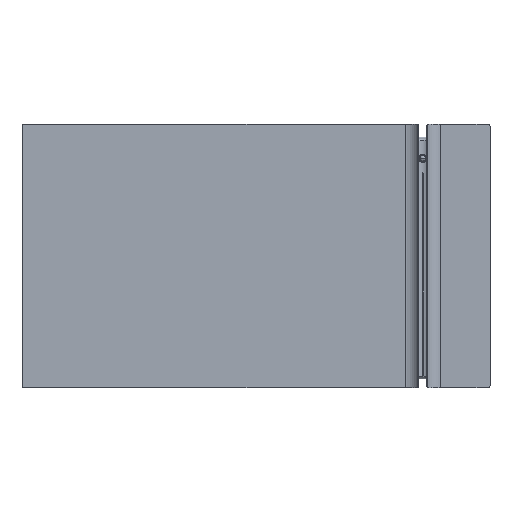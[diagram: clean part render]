
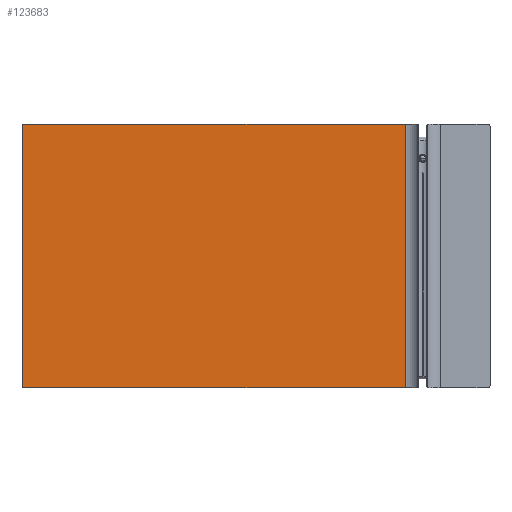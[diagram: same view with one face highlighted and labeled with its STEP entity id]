
A CAD part, top view. The second image highlights one B-rep face of the part: STEP entity #123683.
In plain terms, the highlighted planar face has unit normal (0, 0, 1).
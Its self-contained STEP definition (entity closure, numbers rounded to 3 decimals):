
#123407 = VERTEX_POINT('',#123408);
#123408 = CARTESIAN_POINT('',(3.,-225.,1.5));
#123414 = EDGE_CURVE('',#123415,#123407,#123417,.T.);
#123415 = VERTEX_POINT('',#123416);
#123416 = CARTESIAN_POINT('',(655.,-225.,1.5));
#123417 = LINE('',#123418,#123419);
#123418 = CARTESIAN_POINT('',(655.,-225.,1.5));
#123419 = VECTOR('',#123420,1.);
#123420 = DIRECTION('',(-1.,0.,0.));
#123437 = EDGE_CURVE('',#123438,#123407,#123440,.T.);
#123438 = VERTEX_POINT('',#123439);
#123439 = CARTESIAN_POINT('',(0.,-222.,1.5));
#123440 = CIRCLE('',#123441,3.);
#123441 = AXIS2_PLACEMENT_3D('',#123442,#123443,#123444);
#123442 = CARTESIAN_POINT('',(3.,-222.,1.5));
#123443 = DIRECTION('',(0.,0.,1.));
#123444 = DIRECTION('',(-1.,0.,0.));
#123462 = VERTEX_POINT('',#123463);
#123463 = CARTESIAN_POINT('',(0.,222.,1.5));
#123469 = EDGE_CURVE('',#123438,#123462,#123470,.T.);
#123470 = LINE('',#123471,#123472);
#123471 = CARTESIAN_POINT('',(0.,-222.,1.5));
#123472 = VECTOR('',#123473,1.);
#123473 = DIRECTION('',(0.,1.,0.));
#123486 = EDGE_CURVE('',#123487,#123462,#123489,.T.);
#123487 = VERTEX_POINT('',#123488);
#123488 = CARTESIAN_POINT('',(3.,225.,1.5));
#123489 = CIRCLE('',#123490,3.);
#123490 = AXIS2_PLACEMENT_3D('',#123491,#123492,#123493);
#123491 = CARTESIAN_POINT('',(3.,222.,1.5));
#123492 = DIRECTION('',(0.,-0.,1.));
#123493 = DIRECTION('',(0.,1.,0.));
#123512 = VERTEX_POINT('',#123513);
#123513 = CARTESIAN_POINT('',(655.,225.,1.5));
#123519 = EDGE_CURVE('',#123512,#123487,#123520,.T.);
#123520 = LINE('',#123521,#123522);
#123521 = CARTESIAN_POINT('',(655.,225.,1.5));
#123522 = VECTOR('',#123523,1.);
#123523 = DIRECTION('',(-1.,0.,0.));
#123642 = EDGE_CURVE('',#123415,#123512,#123643,.T.);
#123643 = LINE('',#123644,#123645);
#123644 = CARTESIAN_POINT('',(655.,-225.,1.5));
#123645 = VECTOR('',#123646,1.);
#123646 = DIRECTION('',(0.,1.,0.));
#123683 = ADVANCED_FACE('',(#123684),#123692,.F.);
#123684 = FACE_BOUND('',#123685,.F.);
#123685 = EDGE_LOOP('',(#123686,#123687,#123688,#123689,#123690,#123691)
  );
#123686 = ORIENTED_EDGE('',*,*,#123414,.T.);
#123687 = ORIENTED_EDGE('',*,*,#123437,.F.);
#123688 = ORIENTED_EDGE('',*,*,#123469,.T.);
#123689 = ORIENTED_EDGE('',*,*,#123486,.F.);
#123690 = ORIENTED_EDGE('',*,*,#123519,.F.);
#123691 = ORIENTED_EDGE('',*,*,#123642,.F.);
#123692 = PLANE('',#123693);
#123693 = AXIS2_PLACEMENT_3D('',#123694,#123695,#123696);
#123694 = CARTESIAN_POINT('',(655.,-225.,1.5));
#123695 = DIRECTION('',(0.,0.,-1.));
#123696 = DIRECTION('',(-1.,0.,0.));
